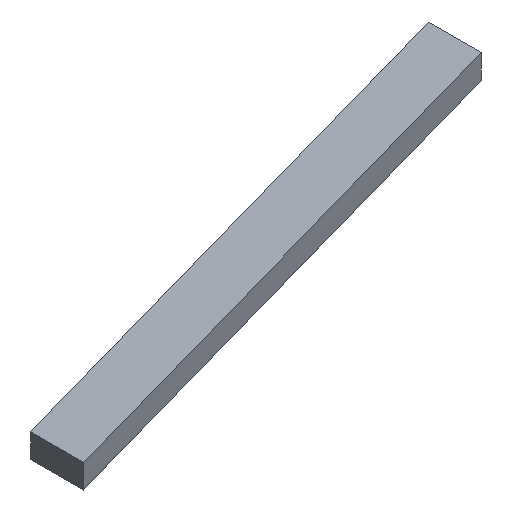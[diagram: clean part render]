
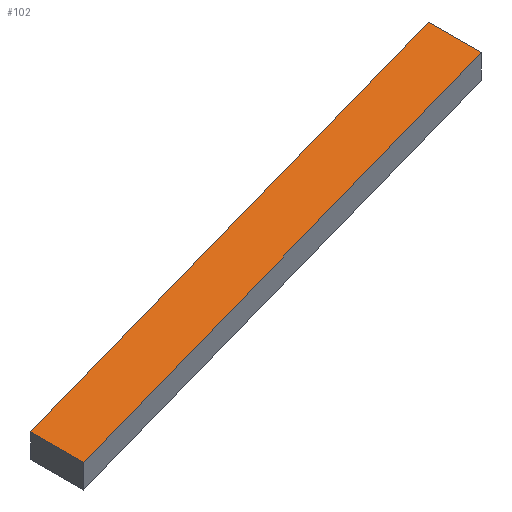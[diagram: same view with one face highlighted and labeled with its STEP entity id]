
A CAD part, isometric view. The second image highlights one B-rep face of the part: STEP entity #102.
In plain terms, the highlighted planar face has unit normal (0, 0, 1).
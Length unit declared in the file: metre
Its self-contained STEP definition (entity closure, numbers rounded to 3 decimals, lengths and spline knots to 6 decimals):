
#28=ORIENTED_EDGE('',*,*,#47,.T.);
#29=ORIENTED_EDGE('',*,*,#45,.T.);
#30=ORIENTED_EDGE('',*,*,#42,.T.);
#31=ORIENTED_EDGE('',*,*,#39,.T.);
#39=EDGE_CURVE('',#48,#51,#59,.T.);
#42=EDGE_CURVE('',#52,#48,#62,.F.);
#45=EDGE_CURVE('',#54,#52,#65,.T.);
#47=EDGE_CURVE('',#51,#54,#67,.T.);
#48=VERTEX_POINT('',#144);
#51=VERTEX_POINT('',#149);
#52=VERTEX_POINT('',#153);
#54=VERTEX_POINT('',#159);
#59=LINE('',#150,#71);
#62=LINE('',#156,#74);
#65=LINE('',#162,#77);
#67=LINE('',#165,#79);
#71=VECTOR('',#122,1.);
#74=VECTOR('',#127,1.);
#77=VECTOR('',#132,1.);
#79=VECTOR('',#136,1.);
#84=EDGE_LOOP('',(#28,#29,#30,#31));
#90=FACE_BOUND('',#84,.T.);
#96=PLANE('',#113);
#102=ADVANCED_FACE('',(#90),#96,.F.);
#113=AXIS2_PLACEMENT_3D('',#166,#137,#138);
#122=DIRECTION('',(-0.963,-0.271,0.));
#127=DIRECTION('',(0.,-1.,0.));
#132=DIRECTION('',(0.963,0.271,0.));
#136=DIRECTION('',(0.,-1.,0.));
#137=DIRECTION('',(0.,0.,-1.));
#138=DIRECTION('',(0.,-1.,0.));
#144=CARTESIAN_POINT('',(-0.022169,-0.002606,-0.03));
#149=CARTESIAN_POINT('',(-0.023327,-0.002932,-0.03));
#150=CARTESIAN_POINT('',(-0.022169,-0.002606,-0.03));
#153=CARTESIAN_POINT('',(-0.022169,-0.002717,-0.03));
#156=CARTESIAN_POINT('',(-0.022169,-0.002824,-0.03));
#159=CARTESIAN_POINT('',(-0.023327,-0.003043,-0.03));
#162=CARTESIAN_POINT('',(-0.023327,-0.003043,-0.03));
#165=CARTESIAN_POINT('',(-0.023327,-0.002824,-0.03));
#166=CARTESIAN_POINT('',(-0.022748,-0.002824,-0.03));
